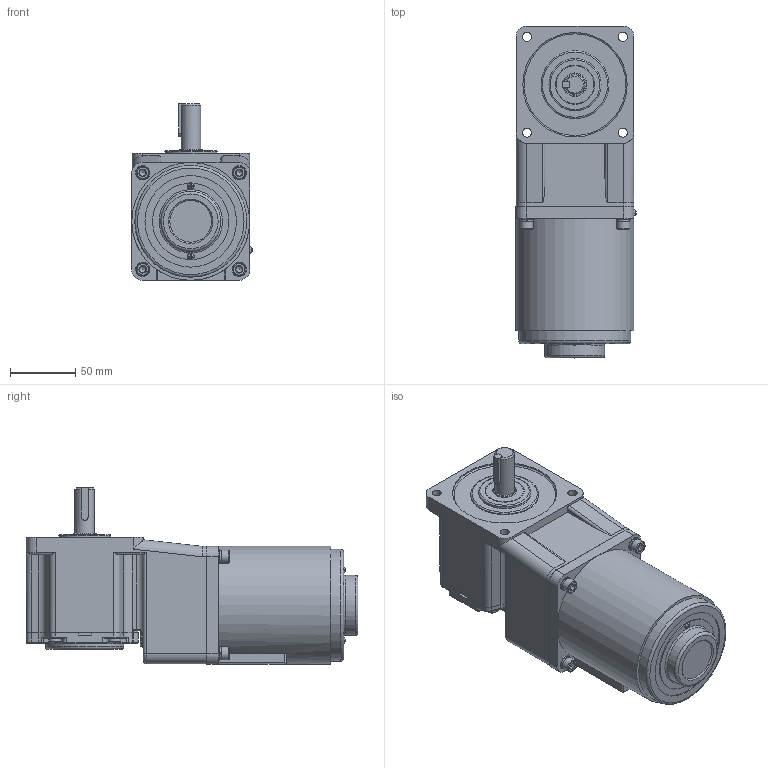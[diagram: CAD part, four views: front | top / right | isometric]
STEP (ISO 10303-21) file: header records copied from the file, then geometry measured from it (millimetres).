
FILE_DESCRIPTION(/* description */ (''),/* implementation_level */ '2;1');
FILE_NAME(/* name */ '90+中实直角-调速-40W.stp',/* time_stamp */ '2022-11-01T13:02:33+08:00',/* author */ (''),/* organization */ (''),/* preprocessor_version */ 'ST-DEVELOPER v16.7',/* originating_system */ 'SIEMENS PLM Software NX 1899',/* authorisation */ '');
FILE_SCHEMA (('AP203_CONFIGURATION_CONTROLLED_3D_DESIGN_OF_MECHANICAL_PARTS_AND_ASSEMBLIES_MIM_LF { 1 0 10303 403 2 1 2}'));
Length unit declared in the file: millimetre
Products named in the file (1): yf1854BC0762njpj
Bounding box: 92.35 x 254.5 x 135.4 mm (x, y, z)
Volume: 1694218.7 mm3; surface area: 142715.9 mm2
Topology: 17 solids, 17 shells, 609 faces, 1404 edges, 849 vertices
Faces by surface type: plane 304, cylinder 189, torus 58, cone 44, sphere 8, bspline 6
Full cylindrical faces by diameter (mm): 5 x4, 5.5 x4, 5.795 x4, 6.4 x4, 7 x8, 9.5 x4, 10 x4, 11 x4, 15 x1, 18 x1, 30 x1, 40 x1, 46 x1, 52 x1, 58.6 x1, 60 x1, 67 x1, 70.2 x1, 76.4 x1, 80 x1, 85.8 x1, 86 x1, 86.4 x1, 90.4 x1
Entity records: 18214 total; most frequent: CARTESIAN_POINT 3724, DIRECTION 2812, ORIENTED_EDGE 2516, EDGE_CURVE 1258, AXIS2_PLACEMENT_3D 1103, VERTEX_POINT 812, EDGE_LOOP 758, ADVANCED_FACE 609
